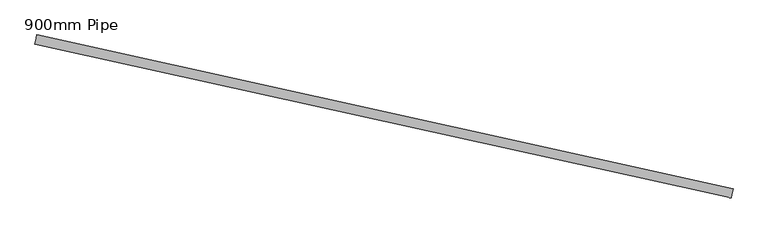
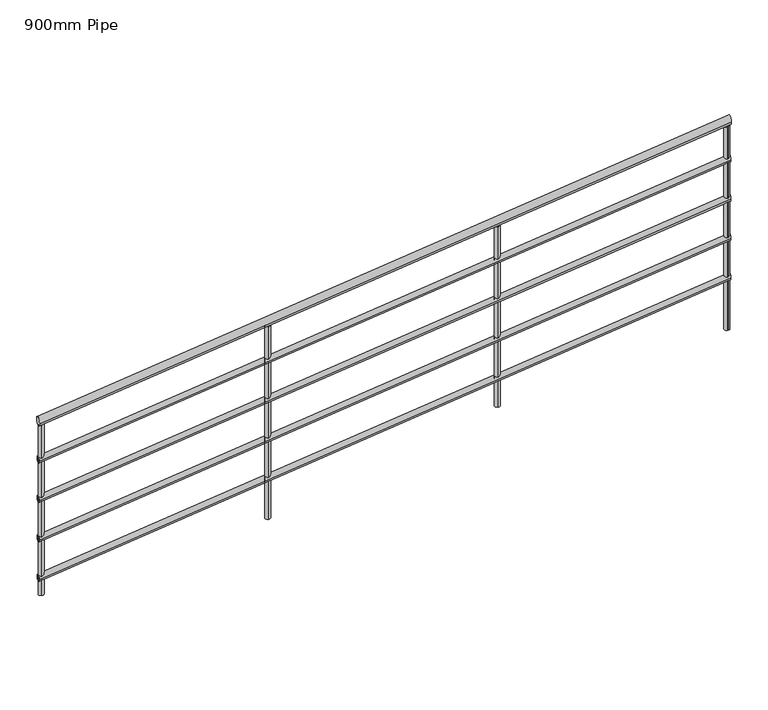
"""IFC4 building model written with IfcOpenShell, lengths in millimetres: railing geometry, 900mm Pipe."""

from ifc_helpers import new_model, si_unit, frame, origin, place, context, project, spatial, circle_curve, ellipse_curve, source, transform, mapped, element, save
from ifc_brep_helpers import plane_surface, cylinder_surface, advanced_brep


def railing_900mm_pipe_f281c3b3(model_context):
    return source(origin(), model_context, "Body", "AdvancedBrep", [
        advanced_brep(
        [(889149.4116771, 71320.1876253, 5058.4278975), (889140.7538647, 71281.1358356, 5058.4278975), (892091.4655371, 70667.9319745, 5954.8984857), (892082.8077246, 70628.8801847, 5954.8984857)],
        [
            (0, 1, ellipse_curve(frame((889145.0827709, 71300.6617305, 5058.4278975), z_axis=(-0.9762947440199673, 0.2164453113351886, 0.0), x_axis=(0.0, 0.0, -1.0)), 20.8662201, 20.0)),
            (1, 0, ellipse_curve(frame((889145.0827709, 71300.6617305, 5058.4278975), z_axis=(-0.9762947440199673, 0.2164453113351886, 0.0), x_axis=(0.0, 0.0, -1.0)), 20.8662201, 20.0)),
            (2, 3, ellipse_curve(frame((892087.1366308, 70648.4060796, 5954.8984857), z_axis=(0.9762947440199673, -0.2164453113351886, 0.0), x_axis=(0.0, 0.0, -1.0)), 20.8662201, 20.0)),
            (3, 2, ellipse_curve(frame((892087.1366308, 70648.4060796, 5954.8984857), z_axis=(0.9762947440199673, -0.2164453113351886, 0.0), x_axis=(0.0, 0.0, -1.0)), 20.8662201, 20.0)),
            (0, 2),
            (3, 1),
        ],
        [
            plane_surface(frame((889145.0827709, 71300.6617305, 5079.2941176), z_axis=(-0.9762947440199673, 0.2164453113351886, 0.0), x_axis=(0.2164453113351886, 0.9762947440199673, 0.0))),
            plane_surface(frame((892087.1366308, 70648.4060796, 5975.7647059), z_axis=(0.9762947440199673, -0.2164453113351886, 0.0), x_axis=(0.2164453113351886, 0.9762947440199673, 0.0))),
            cylinder_surface(frame((889150.6503133, 71299.4274019, 5060.1243784), z_axis=(-0.9357657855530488, 0.20746000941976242, -0.2851363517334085), x_axis=(-0.21644531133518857, -0.9762947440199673, 0.0)), 20.0),
        ],
        [
            (0, [[1, 2]]),
            (1, [[3, 4]]),
            (2, [[-1, 5, -4, 6]]),
            (2, [[-2, -6, -3, -5]]),
        ],
    ),
        advanced_brep(
        [(889148.3294506, 71315.3061516, 4863.6444525), (889141.8360912, 71286.0173093, 4863.6444525), (892090.3833105, 70663.0505008, 5760.1150408), (892083.8899512, 70633.7616585, 5760.1150408)],
        [
            (0, 1, ellipse_curve(frame((889145.0827709, 71300.6617305, 4863.6444525), z_axis=(-0.9762947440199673, 0.2164453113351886, 0.0), x_axis=(0.0, 0.0, -1.0)), 15.6496651, 15.0)),
            (1, 0, ellipse_curve(frame((889145.0827709, 71300.6617305, 4863.6444525), z_axis=(-0.9762947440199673, 0.2164453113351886, 0.0), x_axis=(0.0, 0.0, -1.0)), 15.6496651, 15.0)),
            (2, 3, ellipse_curve(frame((892087.1366308, 70648.4060796, 5760.1150408), z_axis=(0.9762947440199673, -0.2164453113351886, 0.0), x_axis=(0.0, 0.0, -1.0)), 15.6496651, 15.0)),
            (3, 2, ellipse_curve(frame((892087.1366308, 70648.4060796, 5760.1150408), z_axis=(0.9762947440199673, -0.2164453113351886, 0.0), x_axis=(0.0, 0.0, -1.0)), 15.6496651, 15.0)),
            (0, 2),
            (3, 1),
        ],
        [
            plane_surface(frame((889145.0827709, 71300.6617305, 4879.2941176), z_axis=(-0.9762947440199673, 0.2164453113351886, 0.0), x_axis=(0.2164453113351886, 0.9762947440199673, 0.0))),
            plane_surface(frame((892087.1366308, 70648.4060796, 5775.7647059), z_axis=(0.9762947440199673, -0.2164453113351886, 0.0), x_axis=(0.2164453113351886, 0.9762947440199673, 0.0))),
            cylinder_surface(frame((889149.2584277, 71299.7359841, 4864.9168132), z_axis=(-0.9357657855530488, 0.20746000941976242, -0.2851363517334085), x_axis=(-0.21644531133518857, -0.9762947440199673, 0.0)), 15.0),
        ],
        [
            (0, [[1, 2]]),
            (1, [[3, 4]]),
            (2, [[-1, 5, -4, 6]]),
            (2, [[-2, -6, -3, -5]]),
        ],
    ),
        advanced_brep(
        [(889148.3294506, 71315.3061516, 4663.6444525), (889141.8360912, 71286.0173093, 4663.6444525), (892090.3833105, 70663.0505008, 5560.1150408), (892083.8899512, 70633.7616585, 5560.1150408)],
        [
            (0, 1, ellipse_curve(frame((889145.0827709, 71300.6617305, 4663.6444525), z_axis=(-0.9762947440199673, 0.2164453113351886, 0.0), x_axis=(0.0, 0.0, -1.0)), 15.6496651, 15.0)),
            (1, 0, ellipse_curve(frame((889145.0827709, 71300.6617305, 4663.6444525), z_axis=(-0.9762947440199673, 0.2164453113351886, 0.0), x_axis=(0.0, 0.0, -1.0)), 15.6496651, 15.0)),
            (2, 3, ellipse_curve(frame((892087.1366308, 70648.4060796, 5560.1150408), z_axis=(0.9762947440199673, -0.2164453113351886, 0.0), x_axis=(0.0, 0.0, -1.0)), 15.6496651, 15.0)),
            (3, 2, ellipse_curve(frame((892087.1366308, 70648.4060796, 5560.1150408), z_axis=(0.9762947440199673, -0.2164453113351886, 0.0), x_axis=(0.0, 0.0, -1.0)), 15.6496651, 15.0)),
            (0, 2),
            (3, 1),
        ],
        [
            plane_surface(frame((889145.0827709, 71300.6617305, 4679.2941176), z_axis=(-0.9762947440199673, 0.2164453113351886, 0.0), x_axis=(0.2164453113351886, 0.9762947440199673, 0.0))),
            plane_surface(frame((892087.1366308, 70648.4060796, 5575.7647059), z_axis=(0.9762947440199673, -0.2164453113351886, 0.0), x_axis=(0.2164453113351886, 0.9762947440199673, 0.0))),
            cylinder_surface(frame((889149.2584277, 71299.7359841, 4664.9168132), z_axis=(-0.9357657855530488, 0.20746000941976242, -0.2851363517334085), x_axis=(-0.21644531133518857, -0.9762947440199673, 0.0)), 15.0),
        ],
        [
            (0, [[1, 2]]),
            (1, [[3, 4]]),
            (2, [[-1, 5, -4, 6]]),
            (2, [[-2, -6, -3, -5]]),
        ],
    ),
        advanced_brep(
        [(889148.3294506, 71315.3061516, 4463.6444525), (889141.8360912, 71286.0173093, 4463.6444525), (892090.3833105, 70663.0505008, 5360.1150408), (892083.8899512, 70633.7616585, 5360.1150408)],
        [
            (0, 1, ellipse_curve(frame((889145.0827709, 71300.6617305, 4463.6444525), z_axis=(-0.9762947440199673, 0.2164453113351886, 0.0), x_axis=(0.0, 0.0, -1.0)), 15.6496651, 15.0)),
            (1, 0, ellipse_curve(frame((889145.0827709, 71300.6617305, 4463.6444525), z_axis=(-0.9762947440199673, 0.2164453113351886, 0.0), x_axis=(0.0, 0.0, -1.0)), 15.6496651, 15.0)),
            (2, 3, ellipse_curve(frame((892087.1366308, 70648.4060796, 5360.1150408), z_axis=(0.9762947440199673, -0.2164453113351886, 0.0), x_axis=(0.0, 0.0, -1.0)), 15.6496651, 15.0)),
            (3, 2, ellipse_curve(frame((892087.1366308, 70648.4060796, 5360.1150408), z_axis=(0.9762947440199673, -0.2164453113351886, 0.0), x_axis=(0.0, 0.0, -1.0)), 15.6496651, 15.0)),
            (0, 2),
            (3, 1),
        ],
        [
            plane_surface(frame((889145.0827709, 71300.6617305, 4479.2941176), z_axis=(-0.9762947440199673, 0.2164453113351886, 0.0), x_axis=(0.2164453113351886, 0.9762947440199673, 0.0))),
            plane_surface(frame((892087.1366308, 70648.4060796, 5375.7647059), z_axis=(0.9762947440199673, -0.2164453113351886, 0.0), x_axis=(0.2164453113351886, 0.9762947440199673, 0.0))),
            cylinder_surface(frame((889149.2584277, 71299.7359841, 4464.9168132), z_axis=(-0.9357657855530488, 0.20746000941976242, -0.2851363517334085), x_axis=(-0.21644531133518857, -0.9762947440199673, 0.0)), 15.0),
        ],
        [
            (0, [[1, 2]]),
            (1, [[3, 4]]),
            (2, [[-1, 5, -4, 6]]),
            (2, [[-2, -6, -3, -5]]),
        ],
    ),
        advanced_brep(
        [(889148.3294506, 71315.3061516, 4263.6444525), (889141.8360912, 71286.0173093, 4263.6444525), (892090.3833105, 70663.0505008, 5160.1150408), (892083.8899512, 70633.7616585, 5160.1150408)],
        [
            (0, 1, ellipse_curve(frame((889145.0827709, 71300.6617305, 4263.6444525), z_axis=(-0.9762947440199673, 0.2164453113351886, 0.0), x_axis=(0.0, 0.0, -1.0)), 15.6496651, 15.0)),
            (1, 0, ellipse_curve(frame((889145.0827709, 71300.6617305, 4263.6444525), z_axis=(-0.9762947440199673, 0.2164453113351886, 0.0), x_axis=(0.0, 0.0, -1.0)), 15.6496651, 15.0)),
            (2, 3, ellipse_curve(frame((892087.1366308, 70648.4060796, 5160.1150408), z_axis=(0.9762947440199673, -0.2164453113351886, 0.0), x_axis=(0.0, 0.0, -1.0)), 15.6496651, 15.0)),
            (3, 2, ellipse_curve(frame((892087.1366308, 70648.4060796, 5160.1150408), z_axis=(0.9762947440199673, -0.2164453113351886, 0.0), x_axis=(0.0, 0.0, -1.0)), 15.6496651, 15.0)),
            (0, 2),
            (3, 1),
        ],
        [
            plane_surface(frame((889145.0827709, 71300.6617305, 4279.2941176), z_axis=(-0.9762947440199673, 0.2164453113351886, 0.0), x_axis=(0.2164453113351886, 0.9762947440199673, 0.0))),
            plane_surface(frame((892087.1366308, 70648.4060796, 5175.7647059), z_axis=(0.9762947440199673, -0.2164453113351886, 0.0), x_axis=(0.2164453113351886, 0.9762947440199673, 0.0))),
            cylinder_surface(frame((889149.2584277, 71299.7359841, 4264.9168132), z_axis=(-0.9357657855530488, 0.20746000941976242, -0.2851363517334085), x_axis=(-0.21644531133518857, -0.9762947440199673, 0.0)), 15.0),
        ],
        [
            (0, [[1, 2]]),
            (1, [[3, 4]]),
            (2, [[-1, 5, -4, 6]]),
            (2, [[-2, -6, -3, -5]]),
        ],
    ),
        advanced_brep(
        [(892071.2614366, 70639.1221122, 5930.0193601), (892071.2614366, 70639.1221122, 4896.4705882), (892076.6725694, 70663.5294808, 4896.4705882), (892076.6725694, 70663.5294808, 5930.0193601)],
        [
            (0, 1),
            (1, 2, circle_curve(frame((892073.967003, 70651.3257965, 4896.4705882), z_axis=(0.0, 0.0, 1.0), x_axis=(0.21644531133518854, 0.9762947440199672, 0.0)), 12.5)),
            (2, 3),
            (3, 0, ellipse_curve(frame((892073.967003, 70651.3257965, 5930.0193601), z_axis=(0.2783771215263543, -0.06171642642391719, -0.958486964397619), x_axis=(0.9357657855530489, -0.20746000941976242, 0.285136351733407)), 13.0413876, 12.5)),
            (0, 3, ellipse_curve(frame((892073.967003, 70651.3257965, 5930.0193601), z_axis=(0.2783771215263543, -0.06171642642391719, -0.958486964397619), x_axis=(0.9357657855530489, -0.20746000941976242, 0.285136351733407)), 13.0413876, 12.5)),
            (2, 1, circle_curve(frame((892073.967003, 70651.3257965, 4896.4705882), z_axis=(0.0, 0.0, 1.0), x_axis=(0.21644531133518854, 0.9762947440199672, 0.0)), 12.5)),
        ],
        [
            cylinder_surface(frame((892073.967003, 70651.3257965, 4796.4705882), z_axis=(0.0, 0.0, 1.0), x_axis=(0.21644531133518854, 0.9762947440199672, 0.0)), 12.5),
            plane_surface(frame((892103.7855043, 70670.3220323, 5937.4565075), z_axis=(-0.2783771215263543, 0.06171642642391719, 0.958486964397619), x_axis=(-0.21644531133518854, -0.9762947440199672, 0.0))),
            plane_surface(frame((892054.9707671, 70681.1442978, 4896.4705882), z_axis=(0.0, 0.0, -1.0), x_axis=(-0.21644531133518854, -0.9762947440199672, 0.0))),
        ],
        [
            (0, [[1, 2, 3, 4]]),
            (0, [[-1, 5, -3, 6]]),
            (1, [[-4, -5]]),
            (2, [[-2, -6]]),
        ],
    ),
        advanced_brep(
        [(891094.9666925, 70855.5674235, 5632.5334659), (891094.9666925, 70855.5674235, 4717.1764706), (891100.3778253, 70879.9747921, 4717.1764706), (891100.3778253, 70879.9747921, 5632.5334659)],
        [
            (0, 1),
            (1, 2, circle_curve(frame((891097.6722589, 70867.7711078, 4717.1764706), z_axis=(0.0, 0.0, 1.0), x_axis=(0.21644531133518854, 0.9762947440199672, 0.0)), 12.5)),
            (2, 3),
            (3, 0, ellipse_curve(frame((891097.6722589, 70867.7711078, 5632.5334659), z_axis=(0.2783771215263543, -0.06171642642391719, -0.958486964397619), x_axis=(0.9357657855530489, -0.20746000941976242, 0.285136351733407)), 13.0413876, 12.5)),
            (0, 3, ellipse_curve(frame((891097.6722589, 70867.7711078, 5632.5334659), z_axis=(0.2783771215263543, -0.06171642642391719, -0.958486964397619), x_axis=(0.9357657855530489, -0.20746000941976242, 0.285136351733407)), 13.0413876, 12.5)),
            (2, 1, circle_curve(frame((891097.6722589, 70867.7711078, 4717.1764706), z_axis=(0.0, 0.0, 1.0), x_axis=(0.21644531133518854, 0.9762947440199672, 0.0)), 12.5)),
        ],
        [
            cylinder_surface(frame((891097.6722589, 70867.7711078, 4617.1764706), z_axis=(0.0, 0.0, 1.0), x_axis=(0.21644531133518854, 0.9762947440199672, 0.0)), 12.5),
            plane_surface(frame((891127.4907603, 70886.7673436, 5639.9706132), z_axis=(-0.2783771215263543, 0.06171642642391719, 0.958486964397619), x_axis=(-0.21644531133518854, -0.9762947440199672, 0.0))),
            plane_surface(frame((891078.6760231, 70897.5896092, 4717.1764706), z_axis=(0.0, 0.0, -1.0), x_axis=(-0.21644531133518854, -0.9762947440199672, 0.0))),
        ],
        [
            (0, [[1, 2, 3, 4]]),
            (0, [[-1, 5, -3, 6]]),
            (1, [[-4, -5]]),
            (2, [[-2, -6]]),
        ],
    ),
        advanced_brep(
        [(890118.6719485, 71072.0127348, 5335.0475716), (890118.6719485, 71072.0127348, 4358.5882353), (890124.0830813, 71096.4201034, 4358.5882353), (890124.0830813, 71096.4201034, 5335.0475716)],
        [
            (0, 1),
            (1, 2, circle_curve(frame((890121.3775149, 71084.2164191, 4358.5882353), z_axis=(0.0, 0.0, 1.0), x_axis=(0.21644531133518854, 0.9762947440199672, 0.0)), 12.5)),
            (2, 3),
            (3, 0, ellipse_curve(frame((890121.3775149, 71084.2164191, 5335.0475716), z_axis=(0.2783771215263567, -0.06171642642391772, -0.9584869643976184), x_axis=(0.9357657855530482, -0.20746000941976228, 0.28513635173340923)), 13.0413876, 12.5)),
            (0, 3, ellipse_curve(frame((890121.3775149, 71084.2164191, 5335.0475716), z_axis=(0.2783771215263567, -0.06171642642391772, -0.9584869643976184), x_axis=(0.9357657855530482, -0.20746000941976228, 0.28513635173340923)), 13.0413876, 12.5)),
            (2, 1, circle_curve(frame((890121.3775149, 71084.2164191, 4358.5882353), z_axis=(0.0, 0.0, 1.0), x_axis=(0.21644531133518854, 0.9762947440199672, 0.0)), 12.5)),
        ],
        [
            cylinder_surface(frame((890121.3775149, 71084.2164191, 4258.5882353), z_axis=(0.0, 0.0, 1.0), x_axis=(0.21644531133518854, 0.9762947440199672, 0.0)), 12.5),
            plane_surface(frame((890151.1960163, 71103.2126549, 5342.484719), z_axis=(-0.2783771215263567, 0.06171642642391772, 0.9584869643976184), x_axis=(-0.21644531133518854, -0.9762947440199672, 0.0))),
            plane_surface(frame((890102.3812791, 71114.0349205, 4358.5882353), z_axis=(0.0, 0.0, -1.0), x_axis=(-0.21644531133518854, -0.9762947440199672, 0.0))),
        ],
        [
            (0, [[1, 2, 3, 4]]),
            (0, [[-1, 5, -3, 6]]),
            (1, [[-4, -5]]),
            (2, [[-2, -6]]),
        ],
    ),
        advanced_brep(
        [(892072.2273801, 70638.9079617, 5930.3136919), (892072.2273801, 70638.9079617, 4896.4705882), (892077.6385129, 70663.3153303, 4896.4705882), (892077.6385129, 70663.3153303, 5930.3136919)],
        [
            (0, 1),
            (1, 2, circle_curve(frame((892074.9329465, 70651.111646, 4896.4705882), z_axis=(0.0, 0.0, 1.0), x_axis=(0.21644531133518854, 0.9762947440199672, 0.0)), 12.5)),
            (2, 3),
            (3, 0, ellipse_curve(frame((892074.9329465, 70651.111646, 5930.3136919), z_axis=(0.2783771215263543, -0.06171642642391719, -0.958486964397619), x_axis=(0.9357657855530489, -0.20746000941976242, 0.285136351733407)), 13.0413876, 12.5)),
            (0, 3, ellipse_curve(frame((892074.9329465, 70651.111646, 5930.3136919), z_axis=(0.2783771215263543, -0.06171642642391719, -0.958486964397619), x_axis=(0.9357657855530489, -0.20746000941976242, 0.285136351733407)), 13.0413876, 12.5)),
            (2, 1, circle_curve(frame((892074.9329465, 70651.111646, 4896.4705882), z_axis=(0.0, 0.0, 1.0), x_axis=(0.21644531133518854, 0.9762947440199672, 0.0)), 12.5)),
        ],
        [
            cylinder_surface(frame((892074.9329465, 70651.111646, 4796.4705882), z_axis=(0.0, 0.0, 1.0), x_axis=(0.21644531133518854, 0.9762947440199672, 0.0)), 12.5),
            plane_surface(frame((892104.7514479, 70670.1078818, 5937.7508393), z_axis=(-0.2783771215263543, 0.06171642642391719, 0.958486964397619), x_axis=(-0.21644531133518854, -0.9762947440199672, 0.0))),
            plane_surface(frame((892055.9367107, 70680.9301474, 4896.4705882), z_axis=(0.0, 0.0, -1.0), x_axis=(-0.21644531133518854, -0.9762947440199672, 0.0))),
        ],
        [
            (0, [[1, 2, 3, 4]]),
            (0, [[-1, 5, -3, 6]]),
            (1, [[-4, -5]]),
            (2, [[-2, -6]]),
        ],
    ),
        advanced_brep(
        [(889154.5808888, 71285.7524798, 5041.280251), (889154.5808888, 71285.7524798, 4179.2941176), (889159.9920216, 71310.1598484, 4179.2941176), (889159.9920216, 71310.1598484, 5041.280251)],
        [
            (0, 1),
            (1, 2, circle_curve(frame((889157.2864552, 71297.9561641, 4179.2941176), z_axis=(0.0, 0.0, 1.0), x_axis=(0.21644531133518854, 0.9762947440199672, 0.0)), 12.5)),
            (2, 3),
            (3, 0, ellipse_curve(frame((889157.2864552, 71297.9561641, 5041.280251), z_axis=(0.2783771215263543, -0.06171642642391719, -0.958486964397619), x_axis=(0.9357657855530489, -0.20746000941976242, 0.285136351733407)), 13.0413876, 12.5)),
            (0, 3, ellipse_curve(frame((889157.2864552, 71297.9561641, 5041.280251), z_axis=(0.2783771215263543, -0.06171642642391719, -0.958486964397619), x_axis=(0.9357657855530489, -0.20746000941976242, 0.285136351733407)), 13.0413876, 12.5)),
            (2, 1, circle_curve(frame((889157.2864552, 71297.9561641, 4179.2941176), z_axis=(0.0, 0.0, 1.0), x_axis=(0.21644531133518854, 0.9762947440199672, 0.0)), 12.5)),
        ],
        [
            cylinder_surface(frame((889157.2864552, 71297.9561641, 4079.2941176), z_axis=(0.0, 0.0, 1.0), x_axis=(0.21644531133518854, 0.9762947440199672, 0.0)), 12.5),
            plane_surface(frame((889187.1049566, 71316.9523999, 5048.7173984), z_axis=(-0.2783771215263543, 0.06171642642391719, 0.958486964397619), x_axis=(-0.21644531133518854, -0.9762947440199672, 0.0))),
            plane_surface(frame((889138.2902194, 71327.7746655, 4179.2941176), z_axis=(0.0, 0.0, -1.0), x_axis=(-0.21644531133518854, -0.9762947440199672, 0.0))),
        ],
        [
            (0, [[1, 2, 3, 4]]),
            (0, [[-1, 5, -3, 6]]),
            (1, [[-4, -5]]),
            (2, [[-2, -6]]),
        ],
    ),
    ])


if __name__ == "__main__":
    model = new_model("IFC4")
    model_context = context("Model", 3, world=origin())
    ifc_project = project(units=[si_unit("LENGTHUNIT", "METRE", prefix="MILLI")], contexts=[model_context])
    site = spatial("IfcSite", under=ifc_project)
    building = spatial("IfcBuilding", under=site)
    placement = place(None, origin())
    railing_900mm_pipe_shape = railing_900mm_pipe_f281c3b3(model_context)
    element("IfcRailing", 1, ObjectType="900mm Pipe", at=placement, inside=building, context=model_context, shape_type="MappedRepresentation", body=[
        mapped(railing_900mm_pipe_shape, transform((0.0, 0.0, 0.0), x_axis=(1.0, 0.0, 0.0), y_axis=(0.0, 1.0, 0.0), z_axis=(0.0, 0.0, 1.0))),
    ])
    save(model, "model.ifc")
